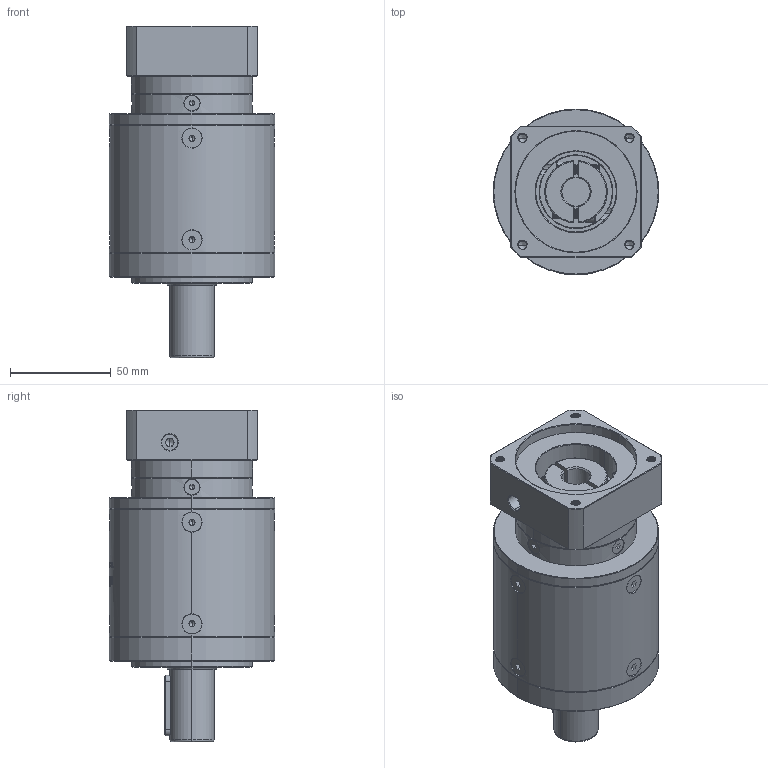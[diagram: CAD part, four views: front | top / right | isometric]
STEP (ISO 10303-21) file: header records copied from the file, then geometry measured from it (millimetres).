
FILE_DESCRIPTION (( 'STEP AP214' ), '1' );
FILE_NAME ('ZE80-D22-L3-14-60-75-M5.step', '2022-05-08T06:05:10', ( '' ), ( 'Microsoft' ), 'SwSTEP 2.0', 'SolidWorks 2016', '' );
FILE_SCHEMA (( 'AUTOMOTIVE_DESIGN' ));
Length unit declared in the file: millimetre
Products named in the file (1): ZE80-D22-L3-14-60-75-M5
Bounding box: 82 x 82 x 164.5 mm (x, y, z)
Volume: 561344.8 mm3; surface area: 72148.6 mm2
Topology: 18 solids, 18 shells, 2131 faces, 5607 edges, 3568 vertices
Faces by surface type: plane 948, cylinder 517, bspline 340, cone 312, torus 14
Entity records: 121758 total; most frequent: CARTESIAN_POINT 49938, ORIENTED_EDGE 11122, DIRECTION 8652, EDGE_CURVE 5561, VERTEX_POINT 3568, VECTOR 2968, LINE 2968, AXIS2_PLACEMENT_3D 2842
